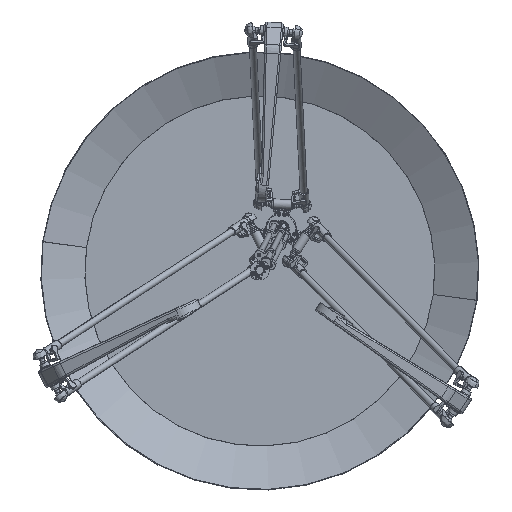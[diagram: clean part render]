
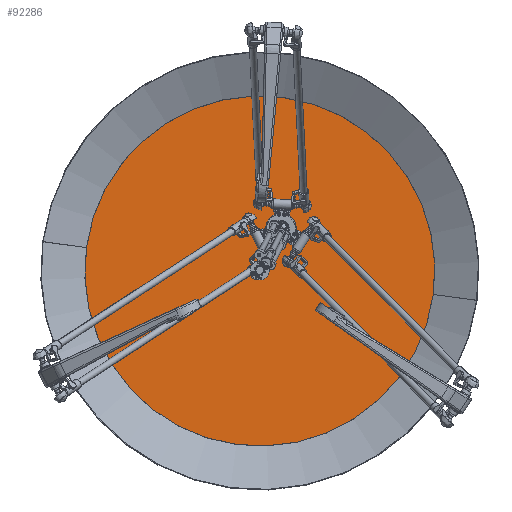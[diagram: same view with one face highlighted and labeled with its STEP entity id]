
A CAD part, top view. The second image highlights one B-rep face of the part: STEP entity #92286.
In plain terms, the highlighted planar face has unit normal (0, 0, 1).
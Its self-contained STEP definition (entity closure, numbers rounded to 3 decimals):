
#6979 = CARTESIAN_POINT ( 'NONE',  ( -1200., 1200., -300. ) ) ;
#23590 = VERTEX_POINT ( 'NONE', #145531 ) ;
#24727 = AXIS2_PLACEMENT_3D ( 'NONE', #132907, #325757, #266352 ) ;
#31578 = CIRCLE ( 'NONE', #172990, 400. ) ;
#49438 = CARTESIAN_POINT ( 'NONE',  ( 0., 0., -300. ) ) ;
#91037 = EDGE_CURVE ( 'NONE', #23590, #224394, #335536, .T. ) ;
#92286 = ADVANCED_FACE ( 'NONE', ( #309260 ), #305791, .F. ) ;
#113782 = ORIENTED_EDGE ( 'NONE', *, *, #91037, .T. ) ;
#126248 = CARTESIAN_POINT ( 'NONE',  ( -400., 0., -300. ) ) ;
#132907 = CARTESIAN_POINT ( 'NONE',  ( 0., 0., -300. ) ) ;
#145531 = CARTESIAN_POINT ( 'NONE',  ( 400., 0., -300. ) ) ;
#172990 = AXIS2_PLACEMENT_3D ( 'NONE', #49438, #239957, #270864 ) ;
#189463 = AXIS2_PLACEMENT_3D ( 'NONE', #6979, #276028, #334310 ) ;
#212645 = EDGE_LOOP ( 'NONE', ( #113782, #329874 ) ) ;
#224394 = VERTEX_POINT ( 'NONE', #126248 ) ;
#239957 = DIRECTION ( 'NONE',  ( 0., 0., 1. ) ) ;
#266352 = DIRECTION ( 'NONE',  ( 1., 0., 0. ) ) ;
#270864 = DIRECTION ( 'NONE',  ( 1., 0., 0. ) ) ;
#276028 = DIRECTION ( 'NONE',  ( 0., 0., -1. ) ) ;
#305791 = PLANE ( 'NONE',  #189463 ) ;
#309260 = FACE_OUTER_BOUND ( 'NONE', #212645, .T. ) ;
#315325 = EDGE_CURVE ( 'NONE', #224394, #23590, #31578, .T. ) ;
#325757 = DIRECTION ( 'NONE',  ( 0., 0., 1. ) ) ;
#329874 = ORIENTED_EDGE ( 'NONE', *, *, #315325, .T. ) ;
#334310 = DIRECTION ( 'NONE',  ( 1., 0., 0. ) ) ;
#335536 = CIRCLE ( 'NONE', #24727, 400. ) ;
